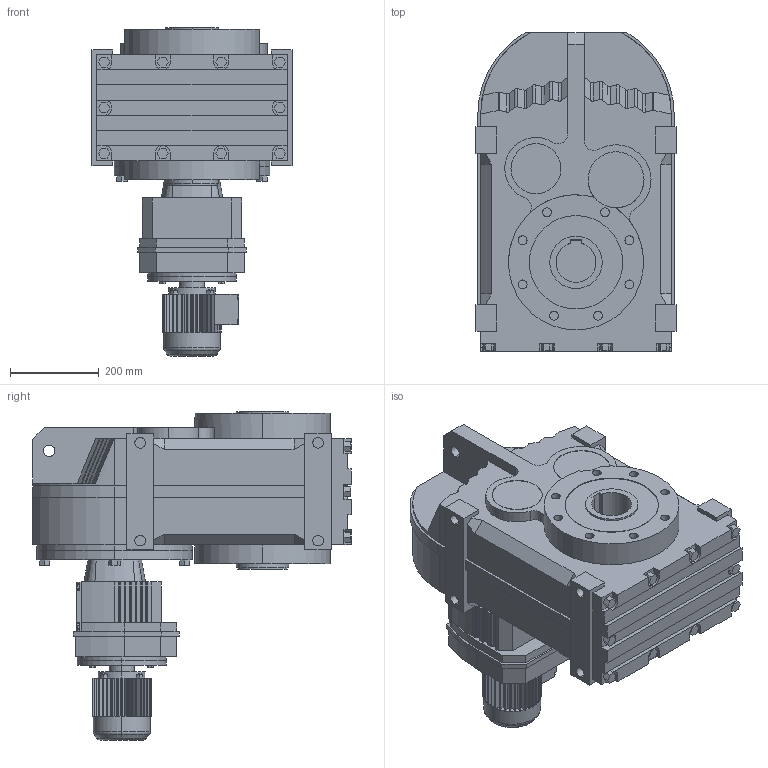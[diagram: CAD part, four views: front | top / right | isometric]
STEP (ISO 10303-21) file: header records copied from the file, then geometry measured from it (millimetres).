
FILE_DESCRIPTION(('Open CASCADE Model'),'2;1');
FILE_NAME('Open CASCADE Shape Model','2021-07-24T10:52:30',('Author'),( 'Open CASCADE'),'Open CASCADE STEP processor 6.3','Open CASCADE 6.3' ,'Unknown');
FILE_SCHEMA(('AUTOMOTIVE_DESIGN_CC2 { 1 2 10303 214 -1 1 5 4 }'));
Length unit declared in the file: millimetre
Products named in the file (5): 1_FA107R77DR63; FA27‵157_107.step; 萇儂_200-DR63-179-234-132-105.step; R_107_77.step; す瑩諾陑粣F_107.step
Assembly tree (4 placements, depth 2):
  1_FA107R77DR63
    FA27‵157_107.step
    萇儂_200-DR63-179-234-132-105.step
    R_107_77.step
    す瑩諾陑粣F_107.step
Bounding box: 450 x 717 x 738 mm (x, y, z)
Volume: 86620213.9 mm3; surface area: 2412221 mm2
Topology: 4 solids, 4 shells, 1005 faces, 2661 edges, 1742 vertices
Faces by surface type: plane 752, cylinder 223, bspline 16, cone 10, torus 4
Entity records: 67351 total; most frequent: CARTESIAN_POINT 15729, DIRECTION 9132, LINE 5479, VECTOR 5479, ORIENTED_EDGE 5322, PCURVE 5322, DEFINITIONAL_REPRESENTATION 5322, EDGE_CURVE 2661
